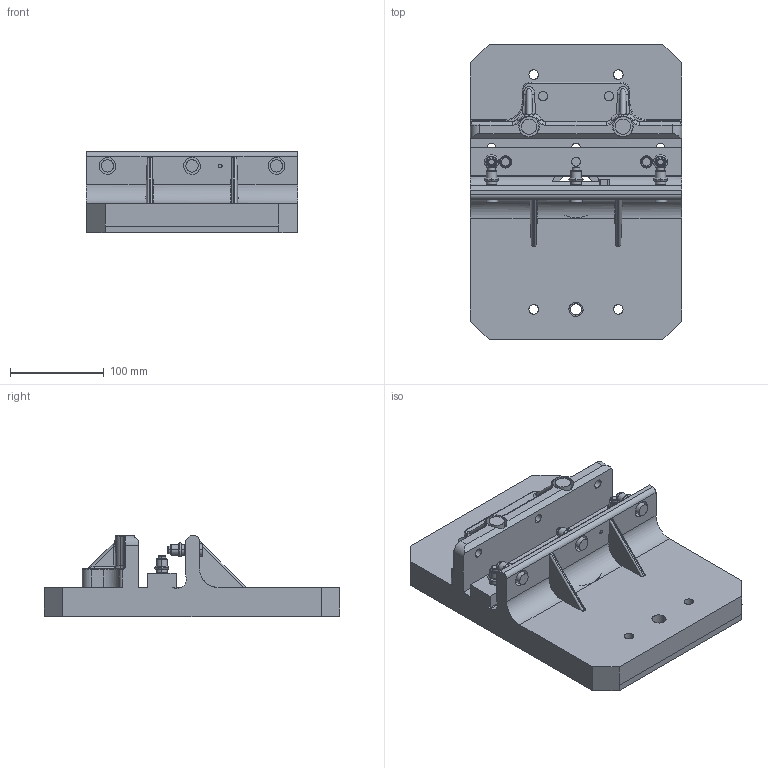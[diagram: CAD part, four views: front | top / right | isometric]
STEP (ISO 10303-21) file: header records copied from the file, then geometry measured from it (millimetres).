
FILE_DESCRIPTION(('STEP AP214'),'1');
FILE_NAME('EGT050_1706185_FLANSCHPLATTE_SW50_90GRAD.CATPart.stp','2015-09-14T13:06:02',('3D-Tool'),(' '),'Spatial InterOp 3D',' ',' ');
FILE_SCHEMA(('automotive_design'));
Length unit declared in the file: millimetre
Products named in the file (18): EGT050_1706185_FLANSCHPLATTE_SW50_90GRAD|_DIT49969_Hauptkörper ( _SOL218140 - wsp DIN172-A12_12 -  )|_DIT49969_Hauptkörper ( _SOL218140 - wsp DIN172-A12_12 -  ); EGT050_1706185_FLANSCHPLATTE_SW50_90GRAD|_DIT49970_Hauptkörper ( _SOL218831 - wsp DIN 172 A42_30 -  )|_DIT49970_Hauptkörper ( _SOL218831 - wsp DIN 172 A42_30 -  ); EGT050_1706185_FLANSCHPLATTE_SW50_90GRAD|_DIT49199|_DIT49199; EGT050_1706185_FLANSCHPLATTE_SW50_90GRAD|_DIT49200|_DIT49200; EGT050_1706185_FLANSCHPLATTE_SW50_90GRAD|_DIT49202|_DIT49202; EGT050_1706185_FLANSCHPLATTE_SW50_90GRAD|_DIT49203|_DIT49203; EGT050_1706185_FLANSCHPLATTE_SW50_90GRAD|_DIT49932|_DIT49932; EGT050_1706185_FLANSCHPLATTE_SW50_90GRAD|_DIT49961__DIT49949|_DIT49961__DIT49949; EGT050_1706185_FLANSCHPLATTE_SW50_90GRAD|_DIT49961_EGT_050_B8_0155_0571209_Flanschplatte_SW50_90_3D_xSET209.1|_DIT49961_EGT_050_B8_0155_0571209_Flanschplatte_SW50_90_3D_xSET209.1; EGT050_1706185_FLANSCHPLATTE_SW50_90GRAD|_DIT49962__DIT49949|_DIT49962__DIT49949; EGT050_1706185_FLANSCHPLATTE_SW50_90GRAD|_DIT49962_EGT_050_B8_0155_0571209_Flanschplatte_SW50_90_3D_xSET209.1|_DIT49962_EGT_050_B8_0155_0571209_Flanschplatte_SW50_90_3D_xSET209.1; EGT050_1706185_FLANSCHPLATTE_SW50_90GRAD|_DIT49963__DIT49949|_DIT49963__DIT49949; EGT050_1706185_FLANSCHPLATTE_SW50_90GRAD|_DIT49963_EGT_050_B8_0155_0571209_Flanschplatte_SW50_90_3D_xSET209.1|_DIT49963_EGT_050_B8_0155_0571209_Flanschplatte_SW50_90_3D_xSET209.1; EGT050_1706185_FLANSCHPLATTE_SW50_90GRAD|_DIT49966__DIT49965|_DIT49966__DIT49965; EGT050_1706185_FLANSCHPLATTE_SW50_90GRAD|_DIT49966_EGT_050_B8_0155_0571209_Flanschplatte_SW50_90_3D_xSET74.1|_DIT49966_EGT_050_B8_0155_0571209_Flanschplatte_SW50_90_3D_xSET74.1; EGT050_1706185_FLANSCHPLATTE_SW50_90GRAD|_DIT49968__DIT49965|_DIT49968__DIT49965; EGT050_1706185_FLANSCHPLATTE_SW50_90GRAD|_DIT49968_EGT_050_B8_0155_0571209_Flanschplatte_SW50_90_3D_xSET74.1|_DIT49968_EGT_050_B8_0155_0571209_Flanschplatte_SW50_90_3D_xSET74.1; EGT050_1706185_FLANSCHPLATTE_SW50_90GRAD|EGT_050_B8_0155_0571209_Flanschplatte_SW50_90_3D_SET 1.1|EGT_050_B8_0155_0571209_Flanschplatte_SW50_90_3D_SET 1.1
Bounding box: 225 x 315 x 86.5 mm (x, y, z)
Volume: 2694215.6 mm3; surface area: 303211.3 mm2
Topology: 18 solids, 18 shells, 505 faces, 1238 edges, 815 vertices
Faces by surface type: cylinder 256, plane 143, torus 48, cone 48, bspline 10
Entity records: 19861 total; most frequent: CARTESIAN_POINT 6535, ORIENTED_EDGE 2476, EDGE_CURVE 1238, DIRECTION 1054, VERTEX_POINT 815, EDGE_LOOP 613, STYLED_ITEM 523, PRESENTATION_STYLE_ASSIGNMENT 523
